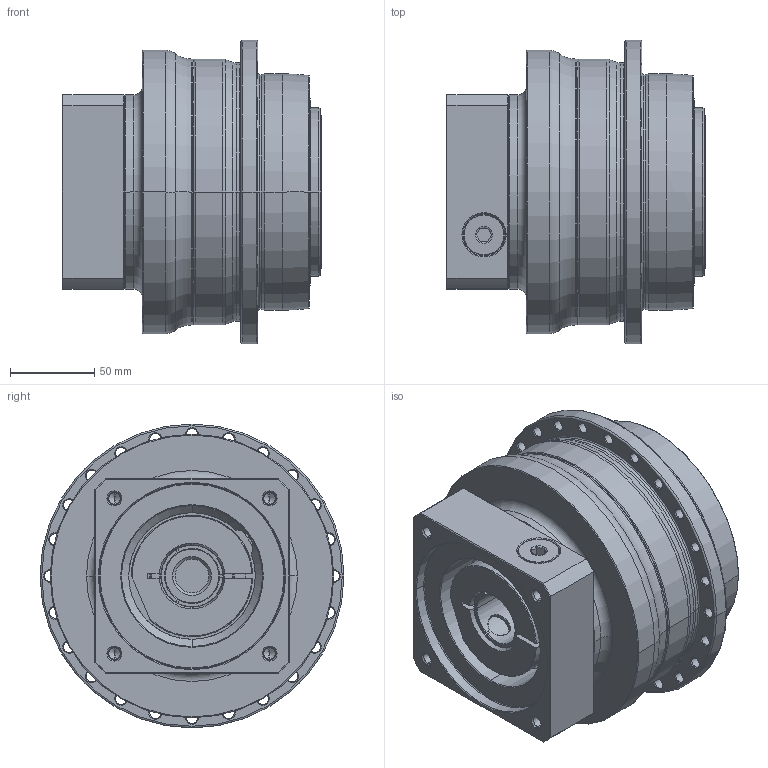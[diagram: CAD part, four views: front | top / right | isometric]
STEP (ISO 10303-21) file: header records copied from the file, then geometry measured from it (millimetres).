
FILE_DESCRIPTION((''),'2;1');
FILE_NAME('AP140_1ST_32-P0409710201_ASM','2018-05-25T',('d01226'),(''),'PRO/ENGINEER BY PARAMETRIC TECHNOLOGY CORPORATION, 2008410','PRO/ENGINEER BY PARAMETRIC TECHNOLOGY CORPORATION, 2008410','');
FILE_SCHEMA(('CONFIG_CONTROL_DESIGN'));
Length unit declared in the file: millimetre
Products named in the file (9): P0278501003; P0359501103; P1318510201; P0503700010; P0912552001; P1211500001; P0409710201; 21711418017; AP140_1ST_32-P0409710201_ASM
Assembly tree (8 placements, depth 2):
  AP140_1ST_32-P0409710201_ASM
    P0278501003
    P0359501103
    P1318510201
    P0503700010
    P0912552001
    P1211500001
    P0409710201
    21711418017
Bounding box: 154 x 180 x 180 mm (x, y, z)
Volume: 2189522.4 mm3; surface area: 300090.2 mm2
Topology: 9 solids, 34 shells, 641 faces, 1493 edges, 922 vertices
Faces by surface type: cylinder 271, cone 177, plane 108, torus 71, bspline 14
Entity records: 23378 total; most frequent: CARTESIAN_POINT 7924, DIRECTION 3555, ORIENTED_EDGE 2868, AXIS2_PLACEMENT_3D 1521, EDGE_CURVE 1485, VERTEX_POINT 922, CIRCLE 867, EDGE_LOOP 797
